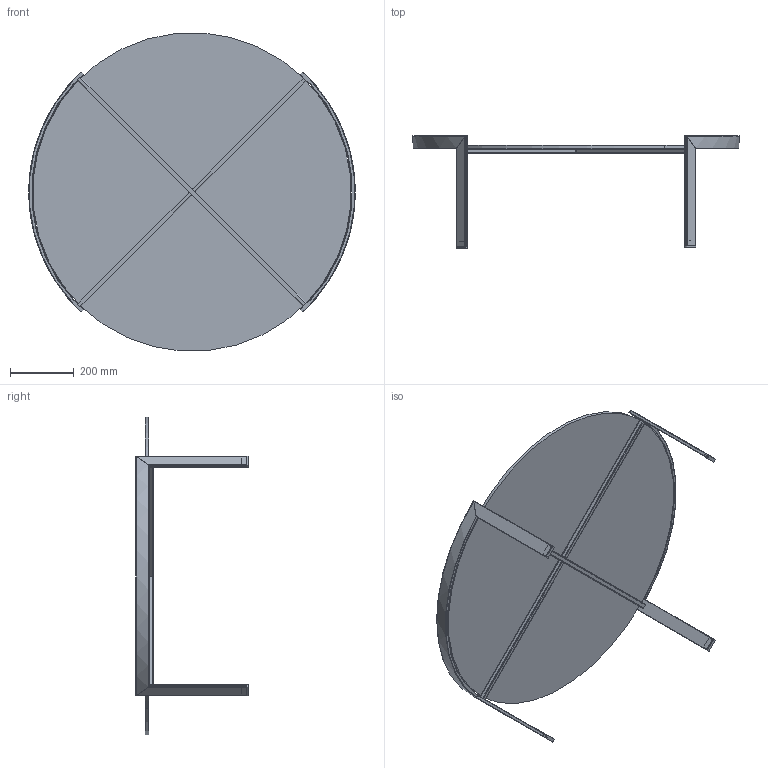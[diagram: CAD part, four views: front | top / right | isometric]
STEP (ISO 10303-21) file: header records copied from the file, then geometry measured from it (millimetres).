
FILE_DESCRIPTION (( 'STEP AP203' ), '1' );
FILE_NAME ('PR03G_Perry_d.100x32h_Glass.STEP', '2024-08-06T11:51:34', ( '' ), ( '' ), 'SwSTEP 2.0', 'SolidWorks 2022', '' );
FILE_SCHEMA (( 'CONFIG_CONTROL_DESIGN' ));
Length unit declared in the file: millimetre
Products named in the file (5): C1XCRMXX-00-piani Rotondi Cristallo_C03 D.100cm; PER00000001-00-PERRY STRUTTURA METALLO_PER0000001<A macchina>; PIEDINO PLASTICA PER PEO; Gommini per PEO; PR03G_Perry_d.100x32h_Glass
Assembly tree (10 placements, depth 2):
  PR03G_Perry_d.100x32h_Glass
    C1XCRMXX-00-piani Rotondi Cristallo_C03 D.100cm
    PER00000001-00-PERRY STRUTTURA METALLO_PER0000001<A macchina>
    PIEDINO PLASTICA PER PEO  x4
    Gommini per PEO  x4
Bounding box: 1025 x 352 x 997.65 mm (x, y, z)
Volume: 8351172.7 mm3; surface area: 2366510.9 mm2
Topology: 18 solids, 18 shells, 270 faces, 686 edges, 456 vertices
Faces by surface type: plane 132, cylinder 114, torus 16, sphere 8
Entity records: 7227 total; most frequent: CARTESIAN_POINT 1698, ORIENTED_EDGE 1036, DIRECTION 998, EDGE_CURVE 518, AXIS2_PLACEMENT_3D 357, VERTEX_POINT 345, LINE 284, VECTOR 284
